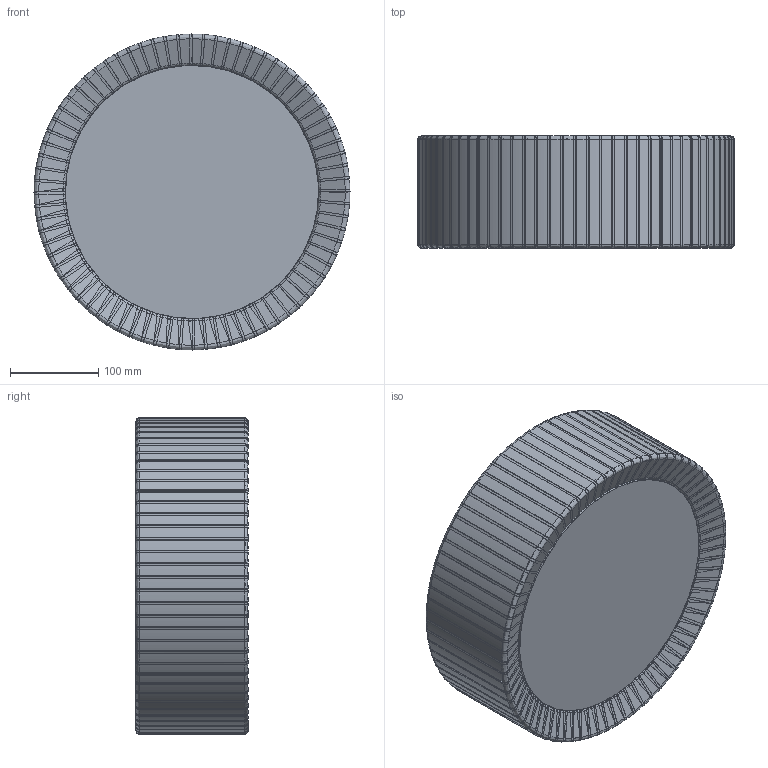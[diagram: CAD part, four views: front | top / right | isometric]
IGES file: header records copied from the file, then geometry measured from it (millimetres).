
Start section: SolidWorks IGES file using analytic representation for surfaces
Global section: file name: E:\3D lampy\Alehandro\Alehandro_5346\Alehandro350.IGS; native system: SolidWorks 2016; preprocessor: SolidWorks 2016; author: Asia; date: 170428.153414; units: millimetre
Bounding box: 357.74 x 126.81 x 357.74 mm (x, y, z)
Surface area: 988251.5 mm2 (no closed solid volume)
Topology: 0 solids, 0 shells, 2908 faces, 27559 edges, 27559 vertices
Faces by surface type: bspline 2346, revolution 562
